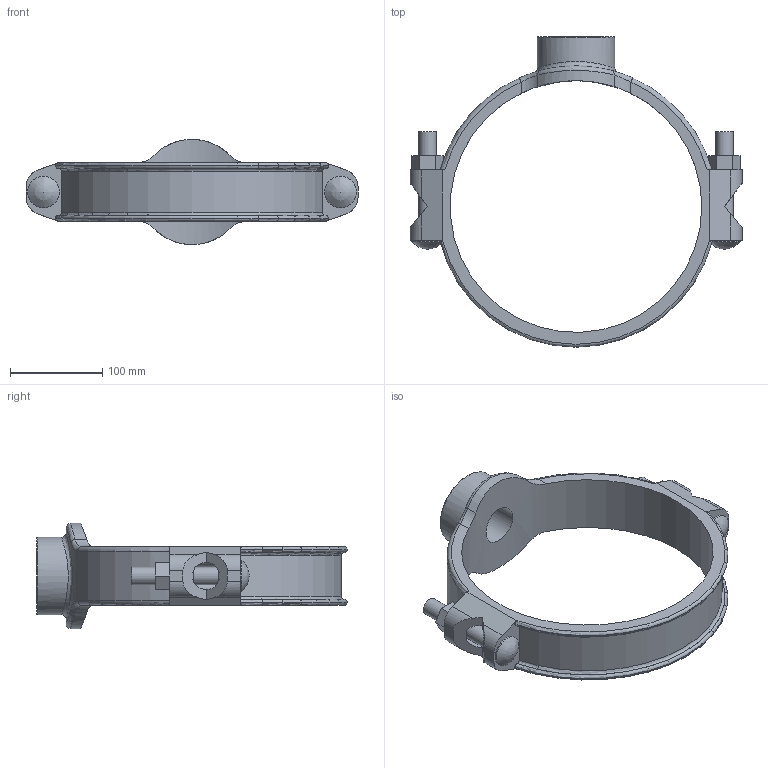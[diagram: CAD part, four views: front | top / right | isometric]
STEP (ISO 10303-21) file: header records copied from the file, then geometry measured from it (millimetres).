
FILE_DESCRIPTION(/* description */ ('VIC SS MECHANICAL T BRANCH OUTLET STYLE 422 (FPT)','CAx-IF Rec.Pracs.---Representation and Presentation of Product Manufacturing Information (PMI)---4.0---2014-10-13'),/* implementation_level */ '2;1');
FILE_NAME(/* name */ 'C:\Files for Export\422\STEP\Victaulic_SS-OGS_Mech-Tee Out_Style 422 (FPT)\Victaulic_SS-OGS_Mech-Tee Out_Style 422 (FPT)_10.0x01.5 (250x40).stp',/* time_stamp */ '2023-03-28T14:29:50+02:00',/* author */ ('jheald'),/* organization */ ('Victaulic'),/* preprocessor_version */ 'ST-DEVELOPER v18.1',/* originating_system */ 'Autodesk Inventor 2020',/* authorisation */ '');
FILE_SCHEMA (('AP242_MANAGED_MODEL_BASED_3D_ENGINEERING_MIM_LF { 1 0 10303 442 1 1 4 }'));
Length unit declared in the file: inch
Products named in the file (1): 422-10.0x01.5
Bounding box: 360.17 x 336.55 x 114.24 mm (x, y, z)
Volume: 1144648.3 mm3; surface area: 201970.7 mm2
Topology: 1 solids, 1 shells, 106 faces, 308 edges, 204 vertices
Faces by surface type: plane 52, cylinder 34, torus 11, bspline 9
Full cylindrical faces by diameter (mm): 19.05 x4, 34.29 x2, 41.275 x1, 48.26 x1, 84.074 x1, 273.05 x1
Entity records: 4604 total; most frequent: CARTESIAN_POINT 1586, ORIENTED_EDGE 612, DIRECTION 584, EDGE_CURVE 306, AXIS2_PLACEMENT_3D 214, VERTEX_POINT 204, LINE 156, VECTOR 156
